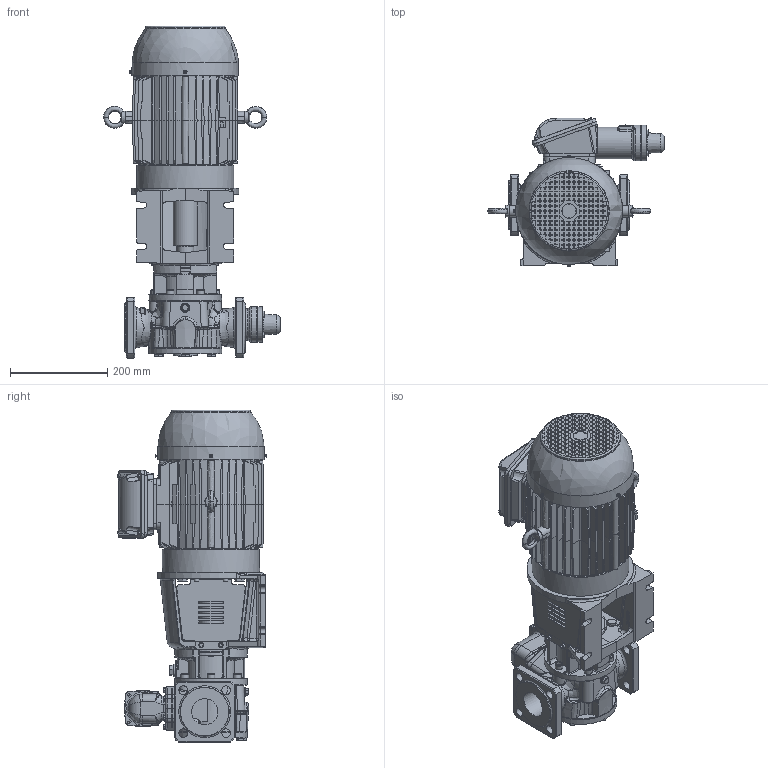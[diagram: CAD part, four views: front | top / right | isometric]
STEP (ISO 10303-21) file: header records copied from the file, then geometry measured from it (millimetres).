
FILE_DESCRIPTION(/* description */ (''),/* implementation_level */ '2;1');
FILE_NAME(/* name */ 'C:\V\JPP\Designs\GEAR PUMPS\PRODUCT ENGINEERING\EUROPE\TG BLOC\TG BLOC_15-50_G2_O_RV1-_112M-STEP.stp',/* time_stamp */ '2021-03-17T09:06:15+01:00',/* author */ ('A77THR'),/* organization */ (''),/* preprocessor_version */ 'ST-DEVELOPER v18.1',/* originating_system */ 'Autodesk Inventor 2020',/* authorisation */ '');
FILE_SCHEMA (('AUTOMOTIVE_DESIGN { 1 0 10303 214 3 1 1 }'));
Length unit declared in the file: millimetre
Products named in the file (1): TG BLOC_15-50_G2_O_RV1-_112M
Bounding box: 363.99 x 305.97 x 684.1 mm (x, y, z)
Volume: 17918214.1 mm3; surface area: 1159379.6 mm2
Topology: 1 solids, 1 shells, 4572 faces, 11670 edges, 7378 vertices
Faces by surface type: plane 2509, bspline 803, cylinder 679, cone 365, torus 157, sphere 59
Full cylindrical faces by diameter (mm): 4 x1, 4.5 x4, 4.917 x4, 5 x6, 5.459 x16, 6 x19, 6.647 x1, 7 x16, 8.376 x5, 8.5 x2, 8.7 x16, 9.188 x4, 10 x12, 10.5 x1, 11.445 x2, 11.5 x4, 12 x5, 15.011 x3, 15.4 x14, 16 x6, 17.9 x3, 18 x11, 19 x3, 21.939 x1, 25.9 x1, 26 x1, 27.6 x1, 27.9 x1, 28 x2, 29.4 x1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
Entity records: 186901 total; most frequent: CARTESIAN_POINT 78342, ORIENTED_EDGE 23192, DIRECTION 19490, EDGE_CURVE 11596, VERTEX_POINT 7378, AXIS2_PLACEMENT_3D 6737, LINE 6016, VECTOR 6016
